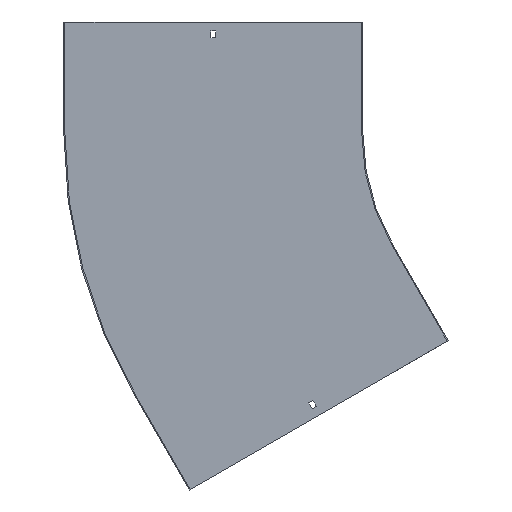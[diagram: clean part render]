
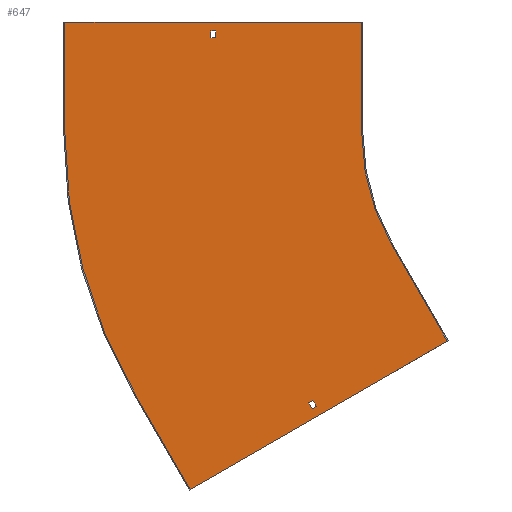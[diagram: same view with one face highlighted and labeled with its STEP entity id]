
A CAD part, front view. The second image highlights one B-rep face of the part: STEP entity #647.
In plain terms, the highlighted planar face has unit normal (0, -1, 0).
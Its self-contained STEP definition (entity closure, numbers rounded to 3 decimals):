
#12 = DIRECTION ( 'NONE',  ( 0., 0., -1. ) ) ;
#14 = EDGE_CURVE ( 'NONE', #353, #85, #474, .T. ) ;
#29 = DIRECTION ( 'NONE',  ( 0., -1., 0. ) ) ;
#34 = VECTOR ( 'NONE', #306, 1000. ) ;
#37 = AXIS2_PLACEMENT_3D ( 'NONE', #629, #29, #832 ) ;
#42 = EDGE_CURVE ( 'NONE', #162, #318, #814, .T. ) ;
#46 = LINE ( 'NONE', #786, #327 ) ;
#47 = VECTOR ( 'NONE', #485, 1000. ) ;
#49 = LINE ( 'NONE', #178, #787 ) ;
#53 = CARTESIAN_POINT ( 'NONE',  ( 0., -1.5, 138. ) ) ;
#56 = DIRECTION ( 'NONE',  ( 1., 0., 0. ) ) ;
#60 = CIRCLE ( 'NONE', #379, 300. ) ;
#75 = EDGE_CURVE ( 'NONE', #240, #353, #176, .T. ) ;
#85 = VERTEX_POINT ( 'NONE', #831 ) ;
#88 = EDGE_LOOP ( 'NONE', ( #305, #191, #470, #762, #840, #223, #592, #450 ) ) ;
#96 = CARTESIAN_POINT ( 'NONE',  ( -700., -1.5, 0. ) ) ;
#119 = ORIENTED_EDGE ( 'NONE', *, *, #701, .F. ) ;
#128 = VECTOR ( 'NONE', #434, 1000. ) ;
#133 = EDGE_CURVE ( 'NONE', #313, #240, #49, .T. ) ;
#143 = EDGE_CURVE ( 'NONE', #545, #307, #765, .T. ) ;
#149 = CARTESIAN_POINT ( 'NONE',  ( -496.75, -1.5, 138. ) ) ;
#153 = PLANE ( 'NONE',  #37 ) ;
#154 = ORIENTED_EDGE ( 'NONE', *, *, #133, .T. ) ;
#161 = LINE ( 'NONE', #367, #676 ) ;
#162 = VERTEX_POINT ( 'NONE', #827 ) ;
#176 = LINE ( 'NONE', #53, #128 ) ;
#178 = CARTESIAN_POINT ( 'NONE',  ( -503.25, -1.5, 0. ) ) ;
#186 = VERTEX_POINT ( 'NONE', #717 ) ;
#191 = ORIENTED_EDGE ( 'NONE', *, *, #143, .F. ) ;
#200 = CARTESIAN_POINT ( 'NONE',  ( -361.198, -1.5, -367.887 ) ) ;
#201 = CARTESIAN_POINT ( 'NONE',  ( 0., -1.5, 0. ) ) ;
#213 = CARTESIAN_POINT ( 'NONE',  ( -300., -1.5, 150. ) ) ;
#214 = VECTOR ( 'NONE', #740, 1000. ) ;
#218 = CARTESIAN_POINT ( 'NONE',  ( -700., -1.5, 150. ) ) ;
#223 = ORIENTED_EDGE ( 'NONE', *, *, #444, .F. ) ;
#234 = VECTOR ( 'NONE', #56, 1000. ) ;
#239 = VERTEX_POINT ( 'NONE', #200 ) ;
#240 = VERTEX_POINT ( 'NONE', #333 ) ;
#249 = DIRECTION ( 'NONE',  ( -1., 0., 0. ) ) ;
#253 = CARTESIAN_POINT ( 'NONE',  ( -606.218, -1.5, -350. ) ) ;
#276 = ORIENTED_EDGE ( 'NONE', *, *, #14, .T. ) ;
#284 = LINE ( 'NONE', #213, #47 ) ;
#299 = ORIENTED_EDGE ( 'NONE', *, *, #852, .F. ) ;
#305 = ORIENTED_EDGE ( 'NONE', *, *, #724, .F. ) ;
#306 = DIRECTION ( 'NONE',  ( 0., 0., 1. ) ) ;
#307 = VERTEX_POINT ( 'NONE', #218 ) ;
#313 = VERTEX_POINT ( 'NONE', #553 ) ;
#318 = VERTEX_POINT ( 'NONE', #687 ) ;
#322 = ORIENTED_EDGE ( 'NONE', *, *, #678, .T. ) ;
#326 = DIRECTION ( 'NONE',  ( -0.5, 0., 0.866 ) ) ;
#327 = VECTOR ( 'NONE', #249, 1000. ) ;
#333 = CARTESIAN_POINT ( 'NONE',  ( -503.25, -1.5, 138. ) ) ;
#353 = VERTEX_POINT ( 'NONE', #149 ) ;
#355 = CARTESIAN_POINT ( 'NONE',  ( -300., -1.5, 150. ) ) ;
#360 = EDGE_CURVE ( 'NONE', #599, #665, #284, .T. ) ;
#362 = FACE_BOUND ( 'NONE', #795, .T. ) ;
#367 = CARTESIAN_POINT ( 'NONE',  ( -435.827, -1.5, -251.625 ) ) ;
#379 = AXIS2_PLACEMENT_3D ( 'NONE', #766, #758, #761 ) ;
#384 = CARTESIAN_POINT ( 'NONE',  ( 69., -1.5, -119.512 ) ) ;
#393 = CARTESIAN_POINT ( 'NONE',  ( -531.218, -1.5, -479.904 ) ) ;
#404 = DIRECTION ( 'NONE',  ( -0.866, 0., -0.5 ) ) ;
#430 = DIRECTION ( 'NONE',  ( 0.5, 0., -0.866 ) ) ;
#432 = EDGE_CURVE ( 'NONE', #846, #545, #834, .T. ) ;
#434 = DIRECTION ( 'NONE',  ( 1., 0., 0. ) ) ;
#435 = FACE_OUTER_BOUND ( 'NONE', #88, .T. ) ;
#444 = EDGE_CURVE ( 'NONE', #640, #658, #624, .T. ) ;
#450 = ORIENTED_EDGE ( 'NONE', *, *, #360, .F. ) ;
#453 = CARTESIAN_POINT ( 'NONE',  ( -183.509, -1.5, -279.154 ) ) ;
#455 = VECTOR ( 'NONE', #523, 1000. ) ;
#456 = CARTESIAN_POINT ( 'NONE',  ( -701.5, -1.5, 150. ) ) ;
#470 = ORIENTED_EDGE ( 'NONE', *, *, #432, .F. ) ;
#474 = LINE ( 'NONE', #611, #214 ) ;
#485 = DIRECTION ( 'NONE',  ( 0., 0., -1. ) ) ;
#494 = VERTEX_POINT ( 'NONE', #393 ) ;
#499 = DIRECTION ( 'NONE',  ( 0., 0., 1. ) ) ;
#501 = CARTESIAN_POINT ( 'NONE',  ( -184.808, -1.5, -279.904 ) ) ;
#523 = DIRECTION ( 'NONE',  ( -0.5, 0., 0.866 ) ) ;
#528 = EDGE_CURVE ( 'NONE', #665, #640, #60, .T. ) ;
#533 = LINE ( 'NONE', #453, #835 ) ;
#542 = VECTOR ( 'NONE', #404, 1000. ) ;
#545 = VERTEX_POINT ( 'NONE', #96 ) ;
#548 = EDGE_LOOP ( 'NONE', ( #119, #299, #857, #568 ) ) ;
#553 = CARTESIAN_POINT ( 'NONE',  ( -503.25, -1.5, 129. ) ) ;
#568 = ORIENTED_EDGE ( 'NONE', *, *, #42, .F. ) ;
#570 = FACE_BOUND ( 'NONE', #548, .T. ) ;
#576 = EDGE_CURVE ( 'NONE', #318, #186, #161, .T. ) ;
#579 = ORIENTED_EDGE ( 'NONE', *, *, #75, .T. ) ;
#584 = CARTESIAN_POINT ( 'NONE',  ( -259.808, -1.5, -150. ) ) ;
#592 = ORIENTED_EDGE ( 'NONE', *, *, #528, .F. ) ;
#598 = LINE ( 'NONE', #646, #803 ) ;
#599 = VERTEX_POINT ( 'NONE', #355 ) ;
#611 = CARTESIAN_POINT ( 'NONE',  ( -496.75, -1.5, 0. ) ) ;
#624 = LINE ( 'NONE', #672, #706 ) ;
#629 = CARTESIAN_POINT ( 'NONE',  ( 0., -1.5, 0. ) ) ;
#640 = VERTEX_POINT ( 'NONE', #584 ) ;
#645 = LINE ( 'NONE', #851, #455 ) ;
#646 = CARTESIAN_POINT ( 'NONE',  ( -430.198, -1.5, -248.375 ) ) ;
#647 = ADVANCED_FACE ( 'NONE', ( #570, #435, #362 ), #153, .T. ) ;
#652 = LINE ( 'NONE', #456, #234 ) ;
#658 = VERTEX_POINT ( 'NONE', #501 ) ;
#665 = VERTEX_POINT ( 'NONE', #698 ) ;
#672 = CARTESIAN_POINT ( 'NONE',  ( -259.808, -1.5, -150. ) ) ;
#676 = VECTOR ( 'NONE', #430, 1000. ) ;
#678 = EDGE_CURVE ( 'NONE', #85, #313, #46, .T. ) ;
#687 = CARTESIAN_POINT ( 'NONE',  ( -371.327, -1.5, -363.342 ) ) ;
#698 = CARTESIAN_POINT ( 'NONE',  ( -300., -1.5, 0. ) ) ;
#701 = EDGE_CURVE ( 'NONE', #239, #162, #598, .T. ) ;
#706 = VECTOR ( 'NONE', #739, 1000. ) ;
#717 = CARTESIAN_POINT ( 'NONE',  ( -366.827, -1.5, -371.137 ) ) ;
#718 = LINE ( 'NONE', #384, #858 ) ;
#723 = DIRECTION ( 'NONE',  ( 0.866, 0., 0.5 ) ) ;
#724 = EDGE_CURVE ( 'NONE', #307, #599, #652, .T. ) ;
#734 = DIRECTION ( 'NONE',  ( 0., 1., 0. ) ) ;
#739 = DIRECTION ( 'NONE',  ( 0.5, 0., -0.866 ) ) ;
#740 = DIRECTION ( 'NONE',  ( 0., 0., -1. ) ) ;
#754 = CARTESIAN_POINT ( 'NONE',  ( 64.5, -1.5, -111.717 ) ) ;
#758 = DIRECTION ( 'NONE',  ( 0., -1., 0. ) ) ;
#761 = DIRECTION ( 'NONE',  ( 0., 0., -1. ) ) ;
#762 = ORIENTED_EDGE ( 'NONE', *, *, #818, .F. ) ;
#765 = LINE ( 'NONE', #777, #34 ) ;
#766 = CARTESIAN_POINT ( 'NONE',  ( 0., -1.5, 0. ) ) ;
#777 = CARTESIAN_POINT ( 'NONE',  ( -700., -1.5, 0. ) ) ;
#786 = CARTESIAN_POINT ( 'NONE',  ( 0., -1.5, 129. ) ) ;
#787 = VECTOR ( 'NONE', #499, 1000. ) ;
#795 = EDGE_LOOP ( 'NONE', ( #579, #276, #322, #154 ) ) ;
#801 = AXIS2_PLACEMENT_3D ( 'NONE', #201, #734, #12 ) ;
#803 = VECTOR ( 'NONE', #326, 1000. ) ;
#814 = LINE ( 'NONE', #754, #542 ) ;
#818 = EDGE_CURVE ( 'NONE', #494, #846, #645, .T. ) ;
#827 = CARTESIAN_POINT ( 'NONE',  ( -365.698, -1.5, -360.092 ) ) ;
#831 = CARTESIAN_POINT ( 'NONE',  ( -496.75, -1.5, 129. ) ) ;
#832 = DIRECTION ( 'NONE',  ( 0., 0., -1. ) ) ;
#834 = CIRCLE ( 'NONE', #801, 700. ) ;
#835 = VECTOR ( 'NONE', #843, 1000. ) ;
#840 = ORIENTED_EDGE ( 'NONE', *, *, #845, .F. ) ;
#843 = DIRECTION ( 'NONE',  ( -0.866, 0., -0.5 ) ) ;
#845 = EDGE_CURVE ( 'NONE', #658, #494, #533, .T. ) ;
#846 = VERTEX_POINT ( 'NONE', #253 ) ;
#851 = CARTESIAN_POINT ( 'NONE',  ( -531.218, -1.5, -479.904 ) ) ;
#852 = EDGE_CURVE ( 'NONE', #186, #239, #718, .T. ) ;
#857 = ORIENTED_EDGE ( 'NONE', *, *, #576, .F. ) ;
#858 = VECTOR ( 'NONE', #723, 1000. ) ;
